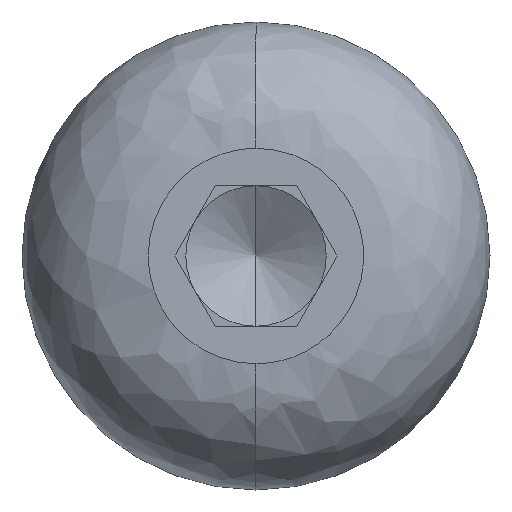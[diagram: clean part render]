
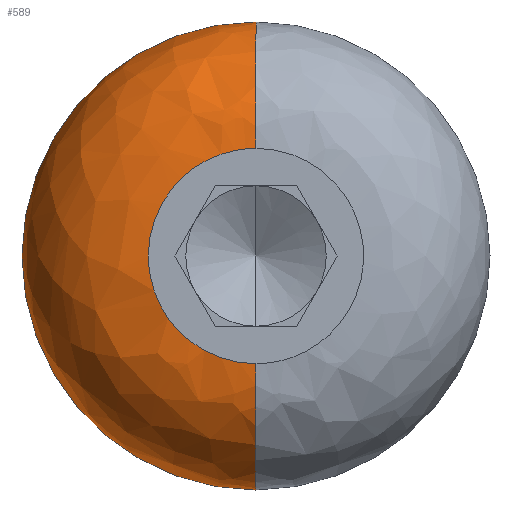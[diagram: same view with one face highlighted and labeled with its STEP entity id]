
A CAD part, left-side view. The second image highlights one B-rep face of the part: STEP entity #589.
In plain terms, the highlighted free-form (B-spline) face has degree [3, 3] with [4, 4] control points.
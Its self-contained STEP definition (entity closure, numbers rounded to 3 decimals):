
#16 = DIRECTION ( 'NONE',  ( 0., 0., -1. ) ) ;
#17 = DIRECTION ( 'NONE',  ( 0., 1., 0. ) ) ;
#18 = DIRECTION ( 'NONE',  ( 0., -1., 0. ) ) ;
#27 = CARTESIAN_POINT ( 'NONE',  ( 2.7, 0., -2.3 ) ) ;
#33 = CARTESIAN_POINT ( 'NONE',  ( 1.118, 10., 5. ) ) ;
#57 = AXIS2_PLACEMENT_3D ( 'NONE', #27, #18, #16 ) ;
#88 = CARTESIAN_POINT ( 'NONE',  ( 0., 0., -2.3 ) ) ;
#97 = CARTESIAN_POINT ( 'NONE',  ( 1.118, 10., -5. ) ) ;
#98 =( BOUNDED_SURFACE ( )  B_SPLINE_SURFACE ( 3, 3, ( 
 ( #769, #679, #235, #88 ),
 ( #554, #300, #727, #451 ),
 ( #497, #33, #97, #163 ),
 ( #239, #620, #765, #232 ) ),
 .UNSPECIFIED., .F., .F., .T. ) 
 B_SPLINE_SURFACE_WITH_KNOTS ( ( 4, 4 ),
 ( 4, 4 ),
 ( 0., 1. ),
 ( 0., 1. ),
 .UNSPECIFIED. ) 
 GEOMETRIC_REPRESENTATION_ITEM ( )  RATIONAL_B_SPLINE_SURFACE ( (
 ( 1., 0.333, 0.333, 1.),
 ( 0.805, 0.268, 0.268, 0.805),
 ( 0.805, 0.268, 0.268, 0.805),
 ( 1., 0.333, 0.333, 1.) ) ) 
 REPRESENTATION_ITEM ( '' )  SURFACE ( )  );
#105 = VERTEX_POINT ( 'NONE', #663 ) ;
#120 = CARTESIAN_POINT ( 'NONE',  ( 0., 0., -2.3 ) ) ;
#127 = AXIS2_PLACEMENT_3D ( 'NONE', #456, #453, #452 ) ;
#136 = CARTESIAN_POINT ( 'NONE',  ( 0., 0., 2.3 ) ) ;
#148 = FACE_OUTER_BOUND ( 'NONE', #162, .T. ) ;
#162 = EDGE_LOOP ( 'NONE', ( #461, #463, #472, #476, #478 ) ) ;
#163 = CARTESIAN_POINT ( 'NONE',  ( 1.118, 0., -5. ) ) ;
#214 = CARTESIAN_POINT ( 'NONE',  ( 0., 0., 2.3 ) ) ;
#216 = CARTESIAN_POINT ( 'NONE',  ( 0., 1.347, 2.3 ) ) ;
#231 = CIRCLE ( 'NONE', #57, 2.7 ) ;
#232 = CARTESIAN_POINT ( 'NONE',  ( 2.7, 0., -5. ) ) ;
#235 = CARTESIAN_POINT ( 'NONE',  ( 0., 4.6, -2.3 ) ) ;
#239 = CARTESIAN_POINT ( 'NONE',  ( 2.7, 0., 5. ) ) ;
#240 = CARTESIAN_POINT ( 'NONE',  ( 0., 2.3, 0. ) ) ;
#248 = CARTESIAN_POINT ( 'NONE',  ( 0., 2.3, 0. ) ) ;
#258 = CARTESIAN_POINT ( 'NONE',  ( 0., 2.3, 1.347 ) ) ;
#262 = CARTESIAN_POINT ( 'NONE',  ( 0., 1.347, -2.3 ) ) ;
#300 = CARTESIAN_POINT ( 'NONE',  ( 0., 7.763, 3.882 ) ) ;
#312 = CARTESIAN_POINT ( 'NONE',  ( 0., 0., -2.3 ) ) ;
#337 = EDGE_CURVE ( 'NONE', #105, #761, #635, .T. ) ;
#338 = CARTESIAN_POINT ( 'NONE',  ( 0., 2.3, -1.347 ) ) ;
#364 =( BOUNDED_CURVE ( )  B_SPLINE_CURVE ( 3, ( #312, #262, #338, #248 ),
 .UNSPECIFIED., .F., .F. ) 
 B_SPLINE_CURVE_WITH_KNOTS ( ( 4, 4 ),
 ( 0., 1. ),
 .UNSPECIFIED. ) 
 CURVE ( )  GEOMETRIC_REPRESENTATION_ITEM ( )  RATIONAL_B_SPLINE_CURVE ( ( 1., 0.805, 0.805, 1. ) ) 
 REPRESENTATION_ITEM ( '' )  );
#366 = CARTESIAN_POINT ( 'NONE',  ( 2.7, 0., 5. ) ) ;
#405 = EDGE_CURVE ( 'NONE', #446, #611, #364, .T. ) ;
#407 = EDGE_CURVE ( 'NONE', #611, #482, #773, .T. ) ;
#414 = DIRECTION ( 'NONE',  ( 0., 0., 1. ) ) ;
#419 = CARTESIAN_POINT ( 'NONE',  ( 2.7, 0., 2.3 ) ) ;
#446 = VERTEX_POINT ( 'NONE', #120 ) ;
#451 = CARTESIAN_POINT ( 'NONE',  ( 0., 0., -3.882 ) ) ;
#452 = DIRECTION ( 'NONE',  ( 0., 0., 1. ) ) ;
#453 = DIRECTION ( 'NONE',  ( 1., 0., 0. ) ) ;
#456 = CARTESIAN_POINT ( 'NONE',  ( 2.7, 0., 0. ) ) ;
#461 = ORIENTED_EDGE ( 'NONE', *, *, #541, .F. ) ;
#463 = ORIENTED_EDGE ( 'NONE', *, *, #405, .T. ) ;
#472 = ORIENTED_EDGE ( 'NONE', *, *, #407, .T. ) ;
#476 = ORIENTED_EDGE ( 'NONE', *, *, #658, .T. ) ;
#478 = ORIENTED_EDGE ( 'NONE', *, *, #337, .F. ) ;
#482 = VERTEX_POINT ( 'NONE', #136 ) ;
#493 = CARTESIAN_POINT ( 'NONE',  ( 0., 2.3, 0. ) ) ;
#497 = CARTESIAN_POINT ( 'NONE',  ( 1.118, 0., 5. ) ) ;
#526 = AXIS2_PLACEMENT_3D ( 'NONE', #419, #17, #414 ) ;
#541 = EDGE_CURVE ( 'NONE', #446, #105, #231, .T. ) ;
#554 = CARTESIAN_POINT ( 'NONE',  ( 0., 0., 3.882 ) ) ;
#589 = ADVANCED_FACE ( 'NONE', ( #148 ), #98, .T. ) ;
#611 = VERTEX_POINT ( 'NONE', #493 ) ;
#620 = CARTESIAN_POINT ( 'NONE',  ( 2.7, 10., 5. ) ) ;
#635 = CIRCLE ( 'NONE', #127, 5. ) ;
#658 = EDGE_CURVE ( 'NONE', #482, #761, #690, .T. ) ;
#663 = CARTESIAN_POINT ( 'NONE',  ( 2.7, 0., -5. ) ) ;
#679 = CARTESIAN_POINT ( 'NONE',  ( 0., 4.6, 2.3 ) ) ;
#690 = CIRCLE ( 'NONE', #526, 2.7 ) ;
#727 = CARTESIAN_POINT ( 'NONE',  ( 0., 7.763, -3.882 ) ) ;
#761 = VERTEX_POINT ( 'NONE', #366 ) ;
#765 = CARTESIAN_POINT ( 'NONE',  ( 2.7, 10., -5. ) ) ;
#769 = CARTESIAN_POINT ( 'NONE',  ( 0., 0., 2.3 ) ) ;
#773 =( BOUNDED_CURVE ( )  B_SPLINE_CURVE ( 3, ( #240, #258, #216, #214 ),
 .UNSPECIFIED., .F., .F. ) 
 B_SPLINE_CURVE_WITH_KNOTS ( ( 4, 4 ),
 ( 0., 1. ),
 .UNSPECIFIED. ) 
 CURVE ( )  GEOMETRIC_REPRESENTATION_ITEM ( )  RATIONAL_B_SPLINE_CURVE ( ( 1., 0.805, 0.805, 1. ) ) 
 REPRESENTATION_ITEM ( '' )  );
